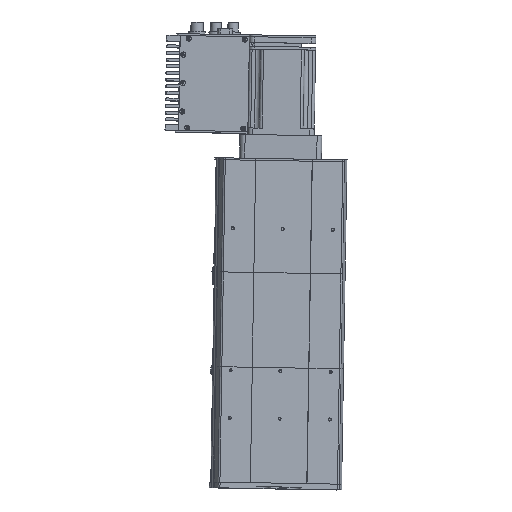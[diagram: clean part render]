
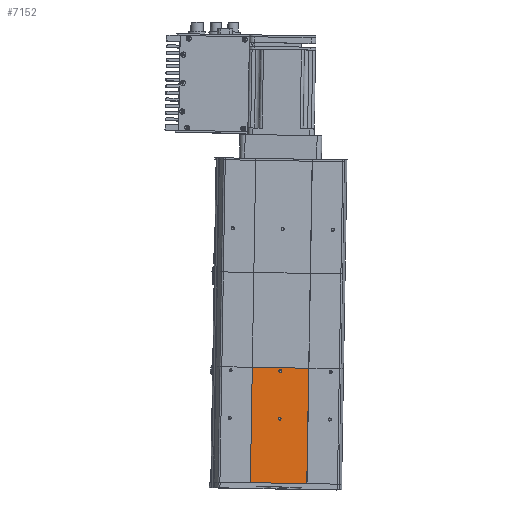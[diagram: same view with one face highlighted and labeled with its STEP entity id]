
A CAD part, front view. The second image highlights one B-rep face of the part: STEP entity #7152.
In plain terms, the highlighted planar face has unit normal (0.098, -0.995, 0.002) as drawn and (0, -1, 0) by its records, which use the part's own axes.
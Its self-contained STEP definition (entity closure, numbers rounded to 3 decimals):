
#5343 = VERTEX_POINT ( 'NONE', #23346 ) ;
#5389 = VERTEX_POINT ( 'NONE', #23447 ) ;
#5401 = EDGE_CURVE ( 'NONE', #5426, #5389, #22588, .T. ) ;
#5411 = VERTEX_POINT ( 'NONE', #23468 ) ;
#5422 = EDGE_CURVE ( 'NONE', #5343, #5411, #23547, .T. ) ;
#5426 = VERTEX_POINT ( 'NONE', #23549 ) ;
#6131 = EDGE_CURVE ( 'NONE', #5411, #5343, #26653, .T. ) ;
#6135 = EDGE_CURVE ( 'NONE', #5389, #5426, #26775, .T. ) ;
#6282 = VERTEX_POINT ( 'NONE', #27349 ) ;
#6380 = EDGE_CURVE ( 'NONE', #6387, #6282, #27700, .T. ) ;
#6387 = VERTEX_POINT ( 'NONE', #27808 ) ;
#7065 = VERTEX_POINT ( 'NONE', #30279 ) ;
#7086 = ORIENTED_EDGE ( 'NONE', *, *, #7146, .F. ) ;
#7087 = EDGE_LOOP ( 'NONE', ( #7147, #7130 ) ) ;
#7107 = EDGE_CURVE ( 'NONE', #7065, #24205, #30426, .T. ) ;
#7130 = ORIENTED_EDGE ( 'NONE', *, *, #5401, .F. ) ;
#7140 = EDGE_LOOP ( 'NONE', ( #7158, #7155, #7086, #7159 ) ) ;
#7145 = EDGE_CURVE ( 'NONE', #6282, #7065, #30447, .T. ) ;
#7146 = EDGE_CURVE ( 'NONE', #24205, #6387, #30477, .T. ) ;
#7147 = ORIENTED_EDGE ( 'NONE', *, *, #6135, .F. ) ;
#7152 = ADVANCED_FACE ( 'NONE', ( #30437, #30479, #30555 ), #30438, .F. ) ;
#7153 = EDGE_LOOP ( 'NONE', ( #7163, #7209 ) ) ;
#7155 = ORIENTED_EDGE ( 'NONE', *, *, #6380, .F. ) ;
#7158 = ORIENTED_EDGE ( 'NONE', *, *, #7145, .F. ) ;
#7159 = ORIENTED_EDGE ( 'NONE', *, *, #7107, .F. ) ;
#7163 = ORIENTED_EDGE ( 'NONE', *, *, #6131, .F. ) ;
#7209 = ORIENTED_EDGE ( 'NONE', *, *, #5422, .F. ) ;
#22558 = AXIS2_PLACEMENT_3D ( 'NONE', #22593, #22599, #22855 ) ;
#22588 = CIRCLE ( 'NONE', #22558, 1.6 ) ;
#22593 = CARTESIAN_POINT ( 'NONE',  ( 0., -32.5, 118. ) ) ;
#22599 = DIRECTION ( 'NONE',  ( 0., -1., 0. ) ) ;
#22855 = DIRECTION ( 'NONE',  ( 0., 0., -1. ) ) ;
#23346 = CARTESIAN_POINT ( 'NONE',  ( 0., -32.5, 69.6 ) ) ;
#23447 = CARTESIAN_POINT ( 'NONE',  ( 0., -32.5, 116.4 ) ) ;
#23468 = CARTESIAN_POINT ( 'NONE',  ( 0., -32.5, 66.4 ) ) ;
#23528 = DIRECTION ( 'NONE',  ( 0., 0., -1. ) ) ;
#23530 = DIRECTION ( 'NONE',  ( 0., -1., 0. ) ) ;
#23547 = CIRCLE ( 'NONE', #23564, 1.6 ) ;
#23549 = CARTESIAN_POINT ( 'NONE',  ( 0., -32.5, 119.6 ) ) ;
#23552 = CARTESIAN_POINT ( 'NONE',  ( 0., -32.5, 68. ) ) ;
#23564 = AXIS2_PLACEMENT_3D ( 'NONE', #23552, #23530, #23528 ) ;
#24205 = VERTEX_POINT ( 'NONE', #53561 ) ;
#26653 = CIRCLE ( 'NONE', #26770, 1.6 ) ;
#26756 = DIRECTION ( 'NONE',  ( 0., 0., -1. ) ) ;
#26757 = DIRECTION ( 'NONE',  ( 0., -1., 0. ) ) ;
#26759 = CARTESIAN_POINT ( 'NONE',  ( 0., -32.5, 118. ) ) ;
#26760 = AXIS2_PLACEMENT_3D ( 'NONE', #26759, #26757, #26756 ) ;
#26765 = DIRECTION ( 'NONE',  ( 0., 0., -1. ) ) ;
#26766 = DIRECTION ( 'NONE',  ( 0., -1., 0. ) ) ;
#26768 = CARTESIAN_POINT ( 'NONE',  ( 0., -32.5, 68. ) ) ;
#26770 = AXIS2_PLACEMENT_3D ( 'NONE', #26768, #26766, #26765 ) ;
#26775 = CIRCLE ( 'NONE', #26760, 1.6 ) ;
#27349 = CARTESIAN_POINT ( 'NONE',  ( -30., -32.5, 121.7 ) ) ;
#27689 = DIRECTION ( 'NONE',  ( 0., 0., 1. ) ) ;
#27690 = CARTESIAN_POINT ( 'NONE',  ( -30., -32.5, 0. ) ) ;
#27700 = LINE ( 'NONE', #27690, #27704 ) ;
#27704 = VECTOR ( 'NONE', #27689, 1000. ) ;
#27808 = CARTESIAN_POINT ( 'NONE',  ( -30., -32.5, 0. ) ) ;
#30279 = CARTESIAN_POINT ( 'NONE',  ( 30., -32.5, 121.7 ) ) ;
#30410 = DIRECTION ( 'NONE',  ( 0., 0., -1. ) ) ;
#30411 = VECTOR ( 'NONE', #30410, 1000. ) ;
#30425 = CARTESIAN_POINT ( 'NONE',  ( 30., -32.5, 0. ) ) ;
#30426 = LINE ( 'NONE', #30425, #30411 ) ;
#30437 = FACE_OUTER_BOUND ( 'NONE', #7140, .T. ) ;
#30438 = PLANE ( 'NONE',  #30542 ) ;
#30439 = DIRECTION ( 'NONE',  ( 1., 0., 0. ) ) ;
#30440 = VECTOR ( 'NONE', #30439, 1000. ) ;
#30442 = CARTESIAN_POINT ( 'NONE',  ( -62.5, -32.5, 121.7 ) ) ;
#30447 = LINE ( 'NONE', #30442, #30440 ) ;
#30477 = LINE ( 'NONE', #30492, #30554 ) ;
#30479 = FACE_BOUND ( 'NONE', #7153, .T. ) ;
#30492 = CARTESIAN_POINT ( 'NONE',  ( -67.5, -32.5, 0. ) ) ;
#30537 = DIRECTION ( 'NONE',  ( 0., 0., 1. ) ) ;
#30539 = DIRECTION ( 'NONE',  ( 0., 1., 0. ) ) ;
#30541 = CARTESIAN_POINT ( 'NONE',  ( -30., -32.5, 0. ) ) ;
#30542 = AXIS2_PLACEMENT_3D ( 'NONE', #30541, #30539, #30537 ) ;
#30552 = DIRECTION ( 'NONE',  ( -1., 0., 0. ) ) ;
#30554 = VECTOR ( 'NONE', #30552, 1000. ) ;
#30555 = FACE_BOUND ( 'NONE', #7087, .T. ) ;
#53561 = CARTESIAN_POINT ( 'NONE',  ( 30., -32.5, 0. ) ) ;
